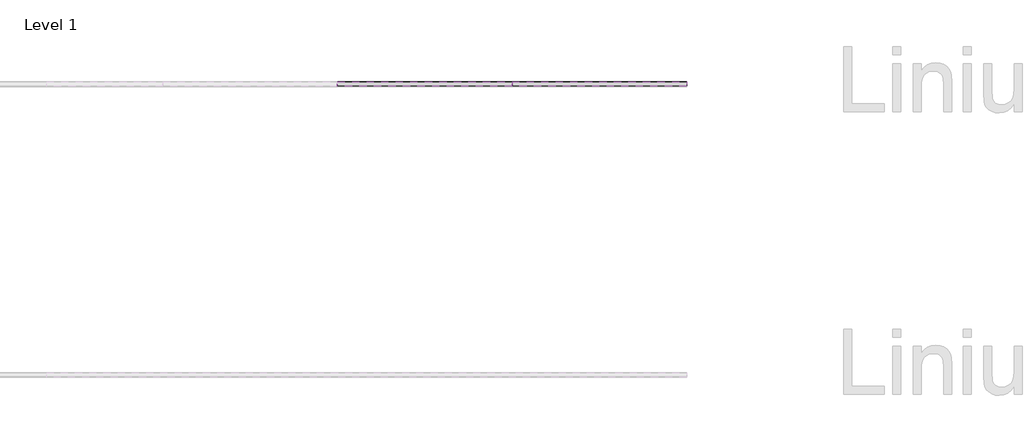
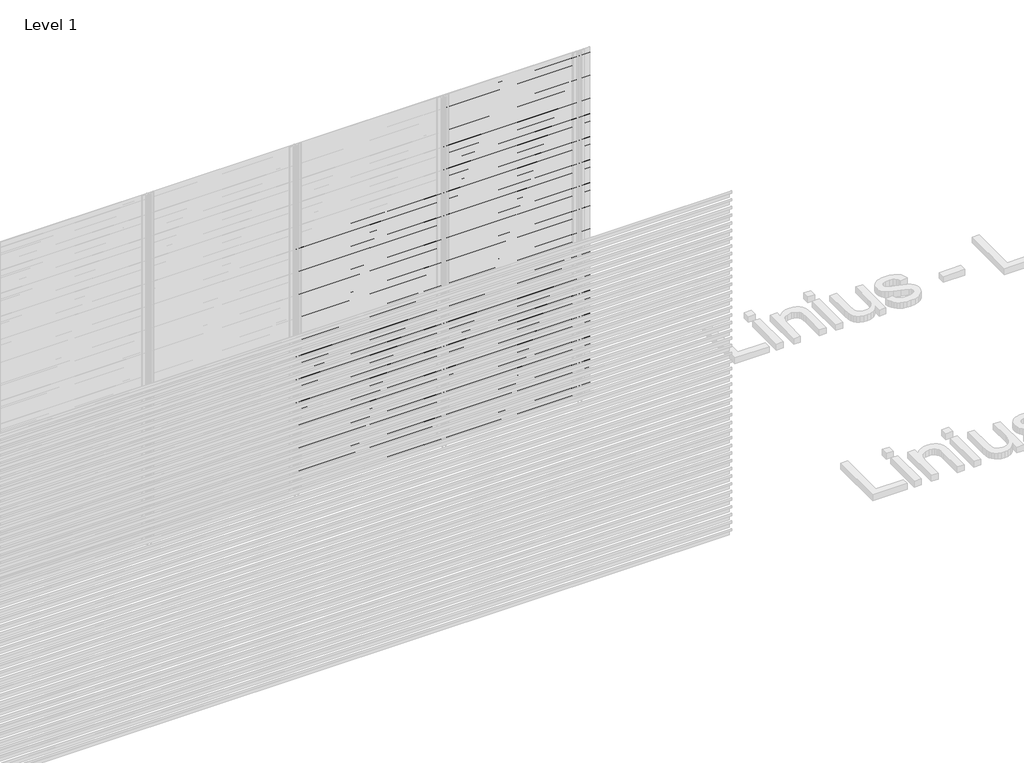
# One storey, part 48 of 540: 78 proxies.
"""IFC4 building model written with IfcOpenShell, lengths in millimetres."""

from ifc_helpers import new_model, si_unit, frame, origin, place, context, project, spatial, polyline, outline, extrude, element, save

model = new_model("IFC4")

# Units and contexts
model_context = context("Model", 3, world=origin())
ifc_project = project(units=[si_unit("LENGTHUNIT", "METRE", prefix="MILLI")], contexts=[model_context])

# Site, building, storey
site = spatial("IfcSite", under=ifc_project)
building = spatial("IfcBuilding", under=site)
storey = spatial("IfcBuildingStorey", under=building, Name="Level 1", Elevation=0.0)

# Proxies
placement = place(None, origin())
element("IfcBuildingElementProxy", 1, Name="Wall Sweeps", at=placement, inside=storey, context=model_context, shape_type="SweptSolid", body=[
    extrude(outline(polyline([(7018.0270068, 2138.0), (7018.0270068, 2105.0), (7016.7770068, 2105.7216933), (7016.7770068, 2137.2872415), (6987.0270068, 2158.0588647), (6987.0270068, 2178.0), (6988.2770068, 2178.0), (6988.2770068, 2158.7716232), (7018.0270068, 2138.0)])), frame((48566.6208097, 0.0, 0.0), z_axis=(1.0, 0.0, 0.0), x_axis=(0.0, 1.0, 0.0)), (0.0, 0.0, 1.0), 1200.0),
])
element("IfcBuildingElementProxy", 2, Name="Wall Sweeps", at=placement, inside=storey, context=model_context, shape_type="SweptSolid", body=[
    extrude(outline(polyline([(7018.0270068, 2072.0), (7018.0270068, 2039.0), (7016.7770068, 2039.7216933), (7016.7770068, 2071.2872415), (6987.0270068, 2092.0588647), (6987.0270068, 2112.0), (6988.2770068, 2112.0), (6988.2770068, 2092.7716232), (7018.0270068, 2072.0)])), frame((48566.6208097, 0.0, 0.0), z_axis=(1.0, 0.0, 0.0), x_axis=(0.0, 1.0, 0.0)), (0.0, 0.0, 1.0), 1200.0),
])
element("IfcBuildingElementProxy", 3, Name="Wall Sweeps", at=placement, inside=storey, context=model_context, shape_type="SweptSolid", body=[
    extrude(outline(polyline([(7018.0270068, 2006.0), (7018.0270068, 1973.0), (7016.7770068, 1973.7216933), (7016.7770068, 2005.2872415), (6987.0270068, 2026.0588647), (6987.0270068, 2046.0), (6988.2770068, 2046.0), (6988.2770068, 2026.7716232), (7018.0270068, 2006.0)])), frame((48566.6208097, 0.0, 0.0), z_axis=(1.0, 0.0, 0.0), x_axis=(0.0, 1.0, 0.0)), (0.0, 0.0, 1.0), 1200.0),
])
element("IfcBuildingElementProxy", 4, Name="Wall Sweeps", at=placement, inside=storey, context=model_context, shape_type="SweptSolid", body=[
    extrude(outline(polyline([(7018.0270068, 1940.0), (7018.0270068, 1907.0), (7016.7770068, 1907.7216933), (7016.7770068, 1939.2872415), (6987.0270068, 1960.0588647), (6987.0270068, 1980.0), (6988.2770068, 1980.0), (6988.2770068, 1960.7716232), (7018.0270068, 1940.0)])), frame((48566.6208097, 0.0, 0.0), z_axis=(1.0, 0.0, 0.0), x_axis=(0.0, 1.0, 0.0)), (0.0, 0.0, 1.0), 1200.0),
])
element("IfcBuildingElementProxy", 5, Name="Wall Sweeps", at=placement, inside=storey, context=model_context, shape_type="SweptSolid", body=[
    extrude(outline(polyline([(7018.0270068, 1874.0), (7018.0270068, 1841.0), (7016.7770068, 1841.7216933), (7016.7770068, 1873.2872415), (6987.0270068, 1894.0588647), (6987.0270068, 1914.0), (6988.2770068, 1914.0), (6988.2770068, 1894.7716232), (7018.0270068, 1874.0)])), frame((48566.6208097, 0.0, 0.0), z_axis=(1.0, 0.0, 0.0), x_axis=(0.0, 1.0, 0.0)), (0.0, 0.0, 1.0), 1200.0),
])
element("IfcBuildingElementProxy", 6, Name="Wall Sweeps", at=placement, inside=storey, context=model_context, shape_type="SweptSolid", body=[
    extrude(outline(polyline([(7018.0270068, 1808.0), (7018.0270068, 1775.0), (7016.7770068, 1775.7216933), (7016.7770068, 1807.2872415), (6987.0270068, 1828.0588647), (6987.0270068, 1848.0), (6988.2770068, 1848.0), (6988.2770068, 1828.7716232), (7018.0270068, 1808.0)])), frame((48566.6208097, 0.0, 0.0), z_axis=(1.0, 0.0, 0.0), x_axis=(0.0, 1.0, 0.0)), (0.0, 0.0, 1.0), 1200.0),
])
element("IfcBuildingElementProxy", 7, Name="Wall Sweeps", at=placement, inside=storey, context=model_context, shape_type="SweptSolid", body=[
    extrude(outline(polyline([(7018.0270068, 1742.0), (7018.0270068, 1709.0), (7016.7770068, 1709.7216933), (7016.7770068, 1741.2872415), (6987.0270068, 1762.0588647), (6987.0270068, 1782.0), (6988.2770068, 1782.0), (6988.2770068, 1762.7716232), (7018.0270068, 1742.0)])), frame((48566.6208097, 0.0, 0.0), z_axis=(1.0, 0.0, 0.0), x_axis=(0.0, 1.0, 0.0)), (0.0, 0.0, 1.0), 1200.0),
])
element("IfcBuildingElementProxy", 8, Name="Wall Sweeps", at=placement, inside=storey, context=model_context, shape_type="SweptSolid", body=[
    extrude(outline(polyline([(7018.0270068, 1676.0), (7018.0270068, 1643.0), (7016.7770068, 1643.7216933), (7016.7770068, 1675.2872415), (6987.0270068, 1696.0588647), (6987.0270068, 1716.0), (6988.2770068, 1716.0), (6988.2770068, 1696.7716232), (7018.0270068, 1676.0)])), frame((48566.6208097, 0.0, 0.0), z_axis=(1.0, 0.0, 0.0), x_axis=(0.0, 1.0, 0.0)), (0.0, 0.0, 1.0), 1200.0),
])
element("IfcBuildingElementProxy", 9, Name="Wall Sweeps", at=placement, inside=storey, context=model_context, shape_type="SweptSolid", body=[
    extrude(outline(polyline([(7018.0270068, 1610.0), (7018.0270068, 1577.0), (7016.7770068, 1577.7216933), (7016.7770068, 1609.2872415), (6987.0270068, 1630.0588647), (6987.0270068, 1650.0), (6988.2770068, 1650.0), (6988.2770068, 1630.7716232), (7018.0270068, 1610.0)])), frame((48566.6208097, 0.0, 0.0), z_axis=(1.0, 0.0, 0.0), x_axis=(0.0, 1.0, 0.0)), (0.0, 0.0, 1.0), 1200.0),
])
element("IfcBuildingElementProxy", 10, Name="Wall Sweeps", at=placement, inside=storey, context=model_context, shape_type="SweptSolid", body=[
    extrude(outline(polyline([(7018.0270068, 1544.0), (7018.0270068, 1511.0), (7016.7770068, 1511.7216933), (7016.7770068, 1543.2872415), (6987.0270068, 1564.0588647), (6987.0270068, 1584.0), (6988.2770068, 1584.0), (6988.2770068, 1564.7716232), (7018.0270068, 1544.0)])), frame((48566.6208097, 0.0, 0.0), z_axis=(1.0, 0.0, 0.0), x_axis=(0.0, 1.0, 0.0)), (0.0, 0.0, 1.0), 1200.0),
])
element("IfcBuildingElementProxy", 11, Name="Wall Sweeps", at=placement, inside=storey, context=model_context, shape_type="SweptSolid", body=[
    extrude(outline(polyline([(7018.0270068, 1478.0), (7018.0270068, 1445.0), (7016.7770068, 1445.7216933), (7016.7770068, 1477.2872415), (6987.0270068, 1498.0588647), (6987.0270068, 1518.0), (6988.2770068, 1518.0), (6988.2770068, 1498.7716232), (7018.0270068, 1478.0)])), frame((48566.6208097, 0.0, 0.0), z_axis=(1.0, 0.0, 0.0), x_axis=(0.0, 1.0, 0.0)), (0.0, 0.0, 1.0), 1200.0),
])
element("IfcBuildingElementProxy", 12, Name="Wall Sweeps", at=placement, inside=storey, context=model_context, shape_type="SweptSolid", body=[
    extrude(outline(polyline([(7018.0270068, 1412.0), (7018.0270068, 1379.0), (7016.7770068, 1379.7216933), (7016.7770068, 1411.2872415), (6987.0270068, 1432.0588647), (6987.0270068, 1452.0), (6988.2770068, 1452.0), (6988.2770068, 1432.7716232), (7018.0270068, 1412.0)])), frame((48566.6208097, 0.0, 0.0), z_axis=(1.0, 0.0, 0.0), x_axis=(0.0, 1.0, 0.0)), (0.0, 0.0, 1.0), 1200.0),
])
element("IfcBuildingElementProxy", 13, Name="Wall Sweeps", at=placement, inside=storey, context=model_context, shape_type="SweptSolid", body=[
    extrude(outline(polyline([(7018.0270068, 1346.0), (7018.0270068, 1313.0), (7016.7770068, 1313.7216933), (7016.7770068, 1345.2872415), (6987.0270068, 1366.0588647), (6987.0270068, 1386.0), (6988.2770068, 1386.0), (6988.2770068, 1366.7716232), (7018.0270068, 1346.0)])), frame((48566.6208097, 0.0, 0.0), z_axis=(1.0, 0.0, 0.0), x_axis=(0.0, 1.0, 0.0)), (0.0, 0.0, 1.0), 1200.0),
])
element("IfcBuildingElementProxy", 14, Name="Wall Sweeps", at=placement, inside=storey, context=model_context, shape_type="SweptSolid", body=[
    extrude(outline(polyline([(7018.0270068, 1280.0), (7018.0270068, 1247.0), (7016.7770068, 1247.7216933), (7016.7770068, 1279.2872415), (6987.0270068, 1300.0588647), (6987.0270068, 1320.0), (6988.2770068, 1320.0), (6988.2770068, 1300.7716232), (7018.0270068, 1280.0)])), frame((48566.6208097, 0.0, 0.0), z_axis=(1.0, 0.0, 0.0), x_axis=(0.0, 1.0, 0.0)), (0.0, 0.0, 1.0), 1200.0),
])
element("IfcBuildingElementProxy", 15, Name="Wall Sweeps", at=placement, inside=storey, context=model_context, shape_type="SweptSolid", body=[
    extrude(outline(polyline([(7018.0270068, 1214.0), (7018.0270068, 1181.0), (7016.7770068, 1181.7216933), (7016.7770068, 1213.2872415), (6987.0270068, 1234.0588647), (6987.0270068, 1254.0), (6988.2770068, 1254.0), (6988.2770068, 1234.7716232), (7018.0270068, 1214.0)])), frame((48566.6208097, 0.0, 0.0), z_axis=(1.0, 0.0, 0.0), x_axis=(0.0, 1.0, 0.0)), (0.0, 0.0, 1.0), 1200.0),
])
element("IfcBuildingElementProxy", 16, Name="Wall Sweeps", at=placement, inside=storey, context=model_context, shape_type="SweptSolid", body=[
    extrude(outline(polyline([(7018.0270068, 1148.0), (7018.0270068, 1115.0), (7016.7770068, 1115.7216933), (7016.7770068, 1147.2872415), (6987.0270068, 1168.0588647), (6987.0270068, 1188.0), (6988.2770068, 1188.0), (6988.2770068, 1168.7716232), (7018.0270068, 1148.0)])), frame((48566.6208097, 0.0, 0.0), z_axis=(1.0, 0.0, 0.0), x_axis=(0.0, 1.0, 0.0)), (0.0, 0.0, 1.0), 1200.0),
])
element("IfcBuildingElementProxy", 17, Name="Wall Sweeps", at=placement, inside=storey, context=model_context, shape_type="SweptSolid", body=[
    extrude(outline(polyline([(7018.0270068, 1082.0), (7018.0270068, 1049.0), (7016.7770068, 1049.7216933), (7016.7770068, 1081.2872415), (6987.0270068, 1102.0588647), (6987.0270068, 1122.0), (6988.2770068, 1122.0), (6988.2770068, 1102.7716232), (7018.0270068, 1082.0)])), frame((48566.6208097, 0.0, 0.0), z_axis=(1.0, 0.0, 0.0), x_axis=(0.0, 1.0, 0.0)), (0.0, 0.0, 1.0), 1200.0),
])
element("IfcBuildingElementProxy", 18, Name="Wall Sweeps", at=placement, inside=storey, context=model_context, shape_type="SweptSolid", body=[
    extrude(outline(polyline([(7018.0270068, 1016.0), (7018.0270068, 983.0), (7016.7770068, 983.7216933), (7016.7770068, 1015.2872415), (6987.0270068, 1036.0588647), (6987.0270068, 1056.0), (6988.2770068, 1056.0), (6988.2770068, 1036.7716232), (7018.0270068, 1016.0)])), frame((48566.6208097, 0.0, 0.0), z_axis=(1.0, 0.0, 0.0), x_axis=(0.0, 1.0, 0.0)), (0.0, 0.0, 1.0), 1200.0),
])
element("IfcBuildingElementProxy", 19, Name="Wall Sweeps", at=placement, inside=storey, context=model_context, shape_type="SweptSolid", body=[
    extrude(outline(polyline([(7018.0270068, 950.0), (7018.0270068, 917.0), (7016.7770068, 917.7216933), (7016.7770068, 949.2872415), (6987.0270068, 970.0588647), (6987.0270068, 990.0), (6988.2770068, 990.0), (6988.2770068, 970.7716232), (7018.0270068, 950.0)])), frame((48566.6208097, 0.0, 0.0), z_axis=(1.0, 0.0, 0.0), x_axis=(0.0, 1.0, 0.0)), (0.0, 0.0, 1.0), 1200.0),
])
element("IfcBuildingElementProxy", 20, Name="Wall Sweeps", at=placement, inside=storey, context=model_context, shape_type="SweptSolid", body=[
    extrude(outline(polyline([(7018.0270068, 884.0), (7018.0270068, 851.0), (7016.7770068, 851.7216933), (7016.7770068, 883.2872415), (6987.0270068, 904.0588647), (6987.0270068, 924.0), (6988.2770068, 924.0), (6988.2770068, 904.7716232), (7018.0270068, 884.0)])), frame((48566.6208097, 0.0, 0.0), z_axis=(1.0, 0.0, 0.0), x_axis=(0.0, 1.0, 0.0)), (0.0, 0.0, 1.0), 1200.0),
])
element("IfcBuildingElementProxy", 21, Name="Wall Sweeps", at=placement, inside=storey, context=model_context, shape_type="SweptSolid", body=[
    extrude(outline(polyline([(7018.0270068, 818.0), (7018.0270068, 785.0), (7016.7770068, 785.7216933), (7016.7770068, 817.2872415), (6987.0270068, 838.0588647), (6987.0270068, 858.0), (6988.2770068, 858.0), (6988.2770068, 838.7716232), (7018.0270068, 818.0)])), frame((48566.6208097, 0.0, 0.0), z_axis=(1.0, 0.0, 0.0), x_axis=(0.0, 1.0, 0.0)), (0.0, 0.0, 1.0), 1200.0),
])
element("IfcBuildingElementProxy", 22, Name="Wall Sweeps", at=placement, inside=storey, context=model_context, shape_type="SweptSolid", body=[
    extrude(outline(polyline([(7018.0270068, 752.0), (7018.0270068, 719.0), (7016.7770068, 719.7216933), (7016.7770068, 751.2872415), (6987.0270068, 772.0588647), (6987.0270068, 792.0), (6988.2770068, 792.0), (6988.2770068, 772.7716232), (7018.0270068, 752.0)])), frame((48566.6208097, 0.0, 0.0), z_axis=(1.0, 0.0, 0.0), x_axis=(0.0, 1.0, 0.0)), (0.0, 0.0, 1.0), 1200.0),
])
element("IfcBuildingElementProxy", 23, Name="Wall Sweeps", at=placement, inside=storey, context=model_context, shape_type="SweptSolid", body=[
    extrude(outline(polyline([(7018.0270068, 686.0), (7018.0270068, 653.0), (7016.7770068, 653.7216933), (7016.7770068, 685.2872415), (6987.0270068, 706.0588647), (6987.0270068, 726.0), (6988.2770068, 726.0), (6988.2770068, 706.7716232), (7018.0270068, 686.0)])), frame((48566.6208097, 0.0, 0.0), z_axis=(1.0, 0.0, 0.0), x_axis=(0.0, 1.0, 0.0)), (0.0, 0.0, 1.0), 1200.0),
])
element("IfcBuildingElementProxy", 24, Name="Wall Sweeps", at=placement, inside=storey, context=model_context, shape_type="SweptSolid", body=[
    extrude(outline(polyline([(7018.0270068, 620.0), (7018.0270068, 587.0), (7016.7770068, 587.7216933), (7016.7770068, 619.2872415), (6987.0270068, 640.0588647), (6987.0270068, 660.0), (6988.2770068, 660.0), (6988.2770068, 640.7716232), (7018.0270068, 620.0)])), frame((48566.6208097, 0.0, 0.0), z_axis=(1.0, 0.0, 0.0), x_axis=(0.0, 1.0, 0.0)), (0.0, 0.0, 1.0), 1200.0),
])
element("IfcBuildingElementProxy", 25, Name="Wall Sweeps", at=placement, inside=storey, context=model_context, shape_type="SweptSolid", body=[
    extrude(outline(polyline([(7018.0270068, 554.0), (7018.0270068, 521.0), (7016.7770068, 521.7216933), (7016.7770068, 553.2872415), (6987.0270068, 574.0588647), (6987.0270068, 594.0), (6988.2770068, 594.0), (6988.2770068, 574.7716232), (7018.0270068, 554.0)])), frame((48566.6208097, 0.0, 0.0), z_axis=(1.0, 0.0, 0.0), x_axis=(0.0, 1.0, 0.0)), (0.0, 0.0, 1.0), 1200.0),
])
element("IfcBuildingElementProxy", 26, Name="Wall Sweeps", at=placement, inside=storey, context=model_context, shape_type="SweptSolid", body=[
    extrude(outline(polyline([(7018.0270068, 488.0), (7018.0270068, 455.0), (7016.7770068, 455.7216933), (7016.7770068, 487.2872415), (6987.0270068, 508.0588647), (6987.0270068, 528.0), (6988.2770068, 528.0), (6988.2770068, 508.7716232), (7018.0270068, 488.0)])), frame((48566.6208097, 0.0, 0.0), z_axis=(1.0, 0.0, 0.0), x_axis=(0.0, 1.0, 0.0)), (0.0, 0.0, 1.0), 1200.0),
])
element("IfcBuildingElementProxy", 27, Name="Wall Sweeps", at=placement, inside=storey, context=model_context, shape_type="SweptSolid", body=[
    extrude(outline(polyline([(7018.0270068, 422.0), (7018.0270068, 389.0), (7016.7770068, 389.7216933), (7016.7770068, 421.2872415), (6987.0270068, 442.0588647), (6987.0270068, 462.0), (6988.2770068, 462.0), (6988.2770068, 442.7716232), (7018.0270068, 422.0)])), frame((48566.6208097, 0.0, 0.0), z_axis=(1.0, 0.0, 0.0), x_axis=(0.0, 1.0, 0.0)), (0.0, 0.0, 1.0), 1200.0),
])
element("IfcBuildingElementProxy", 28, Name="Wall Sweeps", at=placement, inside=storey, context=model_context, shape_type="SweptSolid", body=[
    extrude(outline(polyline([(7018.0270068, 356.0), (7018.0270068, 323.0), (7016.7770068, 323.7216933), (7016.7770068, 355.2872415), (6987.0270068, 376.0588647), (6987.0270068, 396.0), (6988.2770068, 396.0), (6988.2770068, 376.7716232), (7018.0270068, 356.0)])), frame((48566.6208097, 0.0, 0.0), z_axis=(1.0, 0.0, 0.0), x_axis=(0.0, 1.0, 0.0)), (0.0, 0.0, 1.0), 1200.0),
])
element("IfcBuildingElementProxy", 29, Name="Wall Sweeps", at=placement, inside=storey, context=model_context, shape_type="SweptSolid", body=[
    extrude(outline(polyline([(7018.0270068, 290.0), (7018.0270068, 257.0), (7016.7770068, 257.7216933), (7016.7770068, 289.2872415), (6987.0270068, 310.0588647), (6987.0270068, 330.0), (6988.2770068, 330.0), (6988.2770068, 310.7716232), (7018.0270068, 290.0)])), frame((48566.6208097, 0.0, 0.0), z_axis=(1.0, 0.0, 0.0), x_axis=(0.0, 1.0, 0.0)), (0.0, 0.0, 1.0), 1200.0),
])
element("IfcBuildingElementProxy", 30, Name="Wall Sweeps", at=placement, inside=storey, context=model_context, shape_type="SweptSolid", body=[
    extrude(outline(polyline([(7018.0270068, 224.0), (7018.0270068, 191.0), (7016.7770068, 191.7216933), (7016.7770068, 223.2872415), (6987.0270068, 244.0588647), (6987.0270068, 264.0), (6988.2770068, 264.0), (6988.2770068, 244.7716232), (7018.0270068, 224.0)])), frame((48566.6208097, 0.0, 0.0), z_axis=(1.0, 0.0, 0.0), x_axis=(0.0, 1.0, 0.0)), (0.0, 0.0, 1.0), 1200.0),
])
element("IfcBuildingElementProxy", 31, Name="Wall Sweeps", at=placement, inside=storey, context=model_context, shape_type="SweptSolid", body=[
    extrude(outline(polyline([(7018.0270068, 158.0), (7018.0270068, 125.0), (7016.7770068, 125.7216933), (7016.7770068, 157.2872415), (6987.0270068, 178.0588647), (6987.0270068, 198.0), (6988.2770068, 198.0), (6988.2770068, 178.7716232), (7018.0270068, 158.0)])), frame((48566.6208097, 0.0, 0.0), z_axis=(1.0, 0.0, 0.0), x_axis=(0.0, 1.0, 0.0)), (0.0, 0.0, 1.0), 1200.0),
])
element("IfcBuildingElementProxy", 32, Name="Wall Sweeps", at=placement, inside=storey, context=model_context, shape_type="SweptSolid", body=[
    extrude(outline(polyline([(7018.0270068, 92.0), (7018.0270068, 59.0), (7016.7770068, 59.7216933), (7016.7770068, 91.2872415), (6987.0270068, 112.0588647), (6987.0270068, 132.0), (6988.2770068, 132.0), (6988.2770068, 112.7716232), (7018.0270068, 92.0)])), frame((48566.6208097, 0.0, 0.0), z_axis=(1.0, 0.0, 0.0), x_axis=(0.0, 1.0, 0.0)), (0.0, 0.0, 1.0), 1200.0),
])
element("IfcBuildingElementProxy", 33, Name="Wall Sweeps", at=placement, inside=storey, context=model_context, shape_type="SweptSolid", body=[
    extrude(outline(polyline([(7018.0270068, 26.0), (7018.0270068, -7.0), (7016.7770068, -6.2783067), (7016.7770068, 25.2872415), (6987.0270068, 46.0588647), (6987.0270068, 66.0), (6988.2770068, 66.0), (6988.2770068, 46.7716232), (7018.0270068, 26.0)])), frame((48566.6208097, 0.0, 0.0), z_axis=(1.0, 0.0, 0.0), x_axis=(0.0, 1.0, 0.0)), (0.0, 0.0, 1.0), 1200.0),
])
element("IfcBuildingElementProxy", 34, Name="Wall Sweeps", at=placement, inside=storey, context=model_context, shape_type="SweptSolid", body=[
    extrude(outline(polyline([(7018.0270068, 2930.0), (7018.0270068, 2897.0), (7016.7770068, 2897.7216933), (7016.7770068, 2929.2872415), (6987.0270068, 2950.0588647), (6987.0270068, 2970.0), (6988.2770068, 2970.0), (6988.2770068, 2950.7716232), (7018.0270068, 2930.0)])), frame((49766.6208097, 0.0, 0.0), z_axis=(1.0, 0.0, 0.0), x_axis=(0.0, 1.0, 0.0)), (0.0, 0.0, 1.0), 1200.0),
])
element("IfcBuildingElementProxy", 35, Name="Wall Sweeps", at=placement, inside=storey, context=model_context, shape_type="SweptSolid", body=[
    extrude(outline(polyline([(7018.0270068, 2864.0), (7018.0270068, 2831.0), (7016.7770068, 2831.7216933), (7016.7770068, 2863.2872415), (6987.0270068, 2884.0588647), (6987.0270068, 2904.0), (6988.2770068, 2904.0), (6988.2770068, 2884.7716232), (7018.0270068, 2864.0)])), frame((49766.6208097, 0.0, 0.0), z_axis=(1.0, 0.0, 0.0), x_axis=(0.0, 1.0, 0.0)), (0.0, 0.0, 1.0), 1200.0),
])
element("IfcBuildingElementProxy", 36, Name="Wall Sweeps", at=placement, inside=storey, context=model_context, shape_type="SweptSolid", body=[
    extrude(outline(polyline([(7018.0270068, 2798.0), (7018.0270068, 2765.0), (7016.7770068, 2765.7216933), (7016.7770068, 2797.2872415), (6987.0270068, 2818.0588647), (6987.0270068, 2838.0), (6988.2770068, 2838.0), (6988.2770068, 2818.7716232), (7018.0270068, 2798.0)])), frame((49766.6208097, 0.0, 0.0), z_axis=(1.0, 0.0, 0.0), x_axis=(0.0, 1.0, 0.0)), (0.0, 0.0, 1.0), 1200.0),
])
element("IfcBuildingElementProxy", 37, Name="Wall Sweeps", at=placement, inside=storey, context=model_context, shape_type="SweptSolid", body=[
    extrude(outline(polyline([(7018.0270068, 2732.0), (7018.0270068, 2699.0), (7016.7770068, 2699.7216933), (7016.7770068, 2731.2872415), (6987.0270068, 2752.0588647), (6987.0270068, 2772.0), (6988.2770068, 2772.0), (6988.2770068, 2752.7716232), (7018.0270068, 2732.0)])), frame((49766.6208097, 0.0, 0.0), z_axis=(1.0, 0.0, 0.0), x_axis=(0.0, 1.0, 0.0)), (0.0, 0.0, 1.0), 1200.0),
])
element("IfcBuildingElementProxy", 38, Name="Wall Sweeps", at=placement, inside=storey, context=model_context, shape_type="SweptSolid", body=[
    extrude(outline(polyline([(7018.0270068, 2666.0), (7018.0270068, 2633.0), (7016.7770068, 2633.7216933), (7016.7770068, 2665.2872415), (6987.0270068, 2686.0588647), (6987.0270068, 2706.0), (6988.2770068, 2706.0), (6988.2770068, 2686.7716232), (7018.0270068, 2666.0)])), frame((49766.6208097, 0.0, 0.0), z_axis=(1.0, 0.0, 0.0), x_axis=(0.0, 1.0, 0.0)), (0.0, 0.0, 1.0), 1200.0),
])
element("IfcBuildingElementProxy", 39, Name="Wall Sweeps", at=placement, inside=storey, context=model_context, shape_type="SweptSolid", body=[
    extrude(outline(polyline([(7018.0270068, 2600.0), (7018.0270068, 2567.0), (7016.7770068, 2567.7216933), (7016.7770068, 2599.2872415), (6987.0270068, 2620.0588647), (6987.0270068, 2640.0), (6988.2770068, 2640.0), (6988.2770068, 2620.7716232), (7018.0270068, 2600.0)])), frame((49766.6208097, 0.0, 0.0), z_axis=(1.0, 0.0, 0.0), x_axis=(0.0, 1.0, 0.0)), (0.0, 0.0, 1.0), 1200.0),
])
element("IfcBuildingElementProxy", 40, Name="Wall Sweeps", at=placement, inside=storey, context=model_context, shape_type="SweptSolid", body=[
    extrude(outline(polyline([(7018.0270068, 2534.0), (7018.0270068, 2501.0), (7016.7770068, 2501.7216933), (7016.7770068, 2533.2872415), (6987.0270068, 2554.0588647), (6987.0270068, 2574.0), (6988.2770068, 2574.0), (6988.2770068, 2554.7716232), (7018.0270068, 2534.0)])), frame((49766.6208097, 0.0, 0.0), z_axis=(1.0, 0.0, 0.0), x_axis=(0.0, 1.0, 0.0)), (0.0, 0.0, 1.0), 1200.0),
])
element("IfcBuildingElementProxy", 41, Name="Wall Sweeps", at=placement, inside=storey, context=model_context, shape_type="SweptSolid", body=[
    extrude(outline(polyline([(7018.0270068, 2468.0), (7018.0270068, 2435.0), (7016.7770068, 2435.7216933), (7016.7770068, 2467.2872415), (6987.0270068, 2488.0588647), (6987.0270068, 2508.0), (6988.2770068, 2508.0), (6988.2770068, 2488.7716232), (7018.0270068, 2468.0)])), frame((49766.6208097, 0.0, 0.0), z_axis=(1.0, 0.0, 0.0), x_axis=(0.0, 1.0, 0.0)), (0.0, 0.0, 1.0), 1200.0),
])
element("IfcBuildingElementProxy", 42, Name="Wall Sweeps", at=placement, inside=storey, context=model_context, shape_type="SweptSolid", body=[
    extrude(outline(polyline([(7018.0270068, 2402.0), (7018.0270068, 2369.0), (7016.7770068, 2369.7216933), (7016.7770068, 2401.2872415), (6987.0270068, 2422.0588647), (6987.0270068, 2442.0), (6988.2770068, 2442.0), (6988.2770068, 2422.7716232), (7018.0270068, 2402.0)])), frame((49766.6208097, 0.0, 0.0), z_axis=(1.0, 0.0, 0.0), x_axis=(0.0, 1.0, 0.0)), (0.0, 0.0, 1.0), 1200.0),
])
element("IfcBuildingElementProxy", 43, Name="Wall Sweeps", at=placement, inside=storey, context=model_context, shape_type="SweptSolid", body=[
    extrude(outline(polyline([(7018.0270068, 2336.0), (7018.0270068, 2303.0), (7016.7770068, 2303.7216933), (7016.7770068, 2335.2872415), (6987.0270068, 2356.0588647), (6987.0270068, 2376.0), (6988.2770068, 2376.0), (6988.2770068, 2356.7716232), (7018.0270068, 2336.0)])), frame((49766.6208097, 0.0, 0.0), z_axis=(1.0, 0.0, 0.0), x_axis=(0.0, 1.0, 0.0)), (0.0, 0.0, 1.0), 1200.0),
])
element("IfcBuildingElementProxy", 44, Name="Wall Sweeps", at=placement, inside=storey, context=model_context, shape_type="SweptSolid", body=[
    extrude(outline(polyline([(7018.0270068, 2270.0), (7018.0270068, 2237.0), (7016.7770068, 2237.7216933), (7016.7770068, 2269.2872415), (6987.0270068, 2290.0588647), (6987.0270068, 2310.0), (6988.2770068, 2310.0), (6988.2770068, 2290.7716232), (7018.0270068, 2270.0)])), frame((49766.6208097, 0.0, 0.0), z_axis=(1.0, 0.0, 0.0), x_axis=(0.0, 1.0, 0.0)), (0.0, 0.0, 1.0), 1200.0),
])
element("IfcBuildingElementProxy", 45, Name="Wall Sweeps", at=placement, inside=storey, context=model_context, shape_type="SweptSolid", body=[
    extrude(outline(polyline([(7018.0270068, 2204.0), (7018.0270068, 2171.0), (7016.7770068, 2171.7216933), (7016.7770068, 2203.2872415), (6987.0270068, 2224.0588647), (6987.0270068, 2244.0), (6988.2770068, 2244.0), (6988.2770068, 2224.7716232), (7018.0270068, 2204.0)])), frame((49766.6208097, 0.0, 0.0), z_axis=(1.0, 0.0, 0.0), x_axis=(0.0, 1.0, 0.0)), (0.0, 0.0, 1.0), 1200.0),
])
element("IfcBuildingElementProxy", 46, Name="Wall Sweeps", at=placement, inside=storey, context=model_context, shape_type="SweptSolid", body=[
    extrude(outline(polyline([(7018.0270068, 2138.0), (7018.0270068, 2105.0), (7016.7770068, 2105.7216933), (7016.7770068, 2137.2872415), (6987.0270068, 2158.0588647), (6987.0270068, 2178.0), (6988.2770068, 2178.0), (6988.2770068, 2158.7716232), (7018.0270068, 2138.0)])), frame((49766.6208097, 0.0, 0.0), z_axis=(1.0, 0.0, 0.0), x_axis=(0.0, 1.0, 0.0)), (0.0, 0.0, 1.0), 1200.0),
])
element("IfcBuildingElementProxy", 47, Name="Wall Sweeps", at=placement, inside=storey, context=model_context, shape_type="SweptSolid", body=[
    extrude(outline(polyline([(7018.0270068, 2072.0), (7018.0270068, 2039.0), (7016.7770068, 2039.7216933), (7016.7770068, 2071.2872415), (6987.0270068, 2092.0588647), (6987.0270068, 2112.0), (6988.2770068, 2112.0), (6988.2770068, 2092.7716232), (7018.0270068, 2072.0)])), frame((49766.6208097, 0.0, 0.0), z_axis=(1.0, 0.0, 0.0), x_axis=(0.0, 1.0, 0.0)), (0.0, 0.0, 1.0), 1200.0),
])
element("IfcBuildingElementProxy", 48, Name="Wall Sweeps", at=placement, inside=storey, context=model_context, shape_type="SweptSolid", body=[
    extrude(outline(polyline([(7018.0270068, 2006.0), (7018.0270068, 1973.0), (7016.7770068, 1973.7216933), (7016.7770068, 2005.2872415), (6987.0270068, 2026.0588647), (6987.0270068, 2046.0), (6988.2770068, 2046.0), (6988.2770068, 2026.7716232), (7018.0270068, 2006.0)])), frame((49766.6208097, 0.0, 0.0), z_axis=(1.0, 0.0, 0.0), x_axis=(0.0, 1.0, 0.0)), (0.0, 0.0, 1.0), 1200.0),
])
element("IfcBuildingElementProxy", 49, Name="Wall Sweeps", at=placement, inside=storey, context=model_context, shape_type="SweptSolid", body=[
    extrude(outline(polyline([(7018.0270068, 1940.0), (7018.0270068, 1907.0), (7016.7770068, 1907.7216933), (7016.7770068, 1939.2872415), (6987.0270068, 1960.0588647), (6987.0270068, 1980.0), (6988.2770068, 1980.0), (6988.2770068, 1960.7716232), (7018.0270068, 1940.0)])), frame((49766.6208097, 0.0, 0.0), z_axis=(1.0, 0.0, 0.0), x_axis=(0.0, 1.0, 0.0)), (0.0, 0.0, 1.0), 1200.0),
])
element("IfcBuildingElementProxy", 50, Name="Wall Sweeps", at=placement, inside=storey, context=model_context, shape_type="SweptSolid", body=[
    extrude(outline(polyline([(7018.0270068, 1874.0), (7018.0270068, 1841.0), (7016.7770068, 1841.7216933), (7016.7770068, 1873.2872415), (6987.0270068, 1894.0588647), (6987.0270068, 1914.0), (6988.2770068, 1914.0), (6988.2770068, 1894.7716232), (7018.0270068, 1874.0)])), frame((49766.6208097, 0.0, 0.0), z_axis=(1.0, 0.0, 0.0), x_axis=(0.0, 1.0, 0.0)), (0.0, 0.0, 1.0), 1200.0),
])
element("IfcBuildingElementProxy", 51, Name="Wall Sweeps", at=placement, inside=storey, context=model_context, shape_type="SweptSolid", body=[
    extrude(outline(polyline([(7018.0270068, 1808.0), (7018.0270068, 1775.0), (7016.7770068, 1775.7216933), (7016.7770068, 1807.2872415), (6987.0270068, 1828.0588647), (6987.0270068, 1848.0), (6988.2770068, 1848.0), (6988.2770068, 1828.7716232), (7018.0270068, 1808.0)])), frame((49766.6208097, 0.0, 0.0), z_axis=(1.0, 0.0, 0.0), x_axis=(0.0, 1.0, 0.0)), (0.0, 0.0, 1.0), 1200.0),
])
element("IfcBuildingElementProxy", 52, Name="Wall Sweeps", at=placement, inside=storey, context=model_context, shape_type="SweptSolid", body=[
    extrude(outline(polyline([(7018.0270068, 1742.0), (7018.0270068, 1709.0), (7016.7770068, 1709.7216933), (7016.7770068, 1741.2872415), (6987.0270068, 1762.0588647), (6987.0270068, 1782.0), (6988.2770068, 1782.0), (6988.2770068, 1762.7716232), (7018.0270068, 1742.0)])), frame((49766.6208097, 0.0, 0.0), z_axis=(1.0, 0.0, 0.0), x_axis=(0.0, 1.0, 0.0)), (0.0, 0.0, 1.0), 1200.0),
])
element("IfcBuildingElementProxy", 53, Name="Wall Sweeps", at=placement, inside=storey, context=model_context, shape_type="SweptSolid", body=[
    extrude(outline(polyline([(7018.0270068, 1676.0), (7018.0270068, 1643.0), (7016.7770068, 1643.7216933), (7016.7770068, 1675.2872415), (6987.0270068, 1696.0588647), (6987.0270068, 1716.0), (6988.2770068, 1716.0), (6988.2770068, 1696.7716232), (7018.0270068, 1676.0)])), frame((49766.6208097, 0.0, 0.0), z_axis=(1.0, 0.0, 0.0), x_axis=(0.0, 1.0, 0.0)), (0.0, 0.0, 1.0), 1200.0),
])
element("IfcBuildingElementProxy", 54, Name="Wall Sweeps", at=placement, inside=storey, context=model_context, shape_type="SweptSolid", body=[
    extrude(outline(polyline([(7018.0270068, 1610.0), (7018.0270068, 1577.0), (7016.7770068, 1577.7216933), (7016.7770068, 1609.2872415), (6987.0270068, 1630.0588647), (6987.0270068, 1650.0), (6988.2770068, 1650.0), (6988.2770068, 1630.7716232), (7018.0270068, 1610.0)])), frame((49766.6208097, 0.0, 0.0), z_axis=(1.0, 0.0, 0.0), x_axis=(0.0, 1.0, 0.0)), (0.0, 0.0, 1.0), 1200.0),
])
element("IfcBuildingElementProxy", 55, Name="Wall Sweeps", at=placement, inside=storey, context=model_context, shape_type="SweptSolid", body=[
    extrude(outline(polyline([(7018.0270068, 1544.0), (7018.0270068, 1511.0), (7016.7770068, 1511.7216933), (7016.7770068, 1543.2872415), (6987.0270068, 1564.0588647), (6987.0270068, 1584.0), (6988.2770068, 1584.0), (6988.2770068, 1564.7716232), (7018.0270068, 1544.0)])), frame((49766.6208097, 0.0, 0.0), z_axis=(1.0, 0.0, 0.0), x_axis=(0.0, 1.0, 0.0)), (0.0, 0.0, 1.0), 1200.0),
])
element("IfcBuildingElementProxy", 56, Name="Wall Sweeps", at=placement, inside=storey, context=model_context, shape_type="SweptSolid", body=[
    extrude(outline(polyline([(7018.0270068, 1478.0), (7018.0270068, 1445.0), (7016.7770068, 1445.7216933), (7016.7770068, 1477.2872415), (6987.0270068, 1498.0588647), (6987.0270068, 1518.0), (6988.2770068, 1518.0), (6988.2770068, 1498.7716232), (7018.0270068, 1478.0)])), frame((49766.6208097, 0.0, 0.0), z_axis=(1.0, 0.0, 0.0), x_axis=(0.0, 1.0, 0.0)), (0.0, 0.0, 1.0), 1200.0),
])
element("IfcBuildingElementProxy", 57, Name="Wall Sweeps", at=placement, inside=storey, context=model_context, shape_type="SweptSolid", body=[
    extrude(outline(polyline([(7018.0270068, 1412.0), (7018.0270068, 1379.0), (7016.7770068, 1379.7216933), (7016.7770068, 1411.2872415), (6987.0270068, 1432.0588647), (6987.0270068, 1452.0), (6988.2770068, 1452.0), (6988.2770068, 1432.7716232), (7018.0270068, 1412.0)])), frame((49766.6208097, 0.0, 0.0), z_axis=(1.0, 0.0, 0.0), x_axis=(0.0, 1.0, 0.0)), (0.0, 0.0, 1.0), 1200.0),
])
element("IfcBuildingElementProxy", 58, Name="Wall Sweeps", at=placement, inside=storey, context=model_context, shape_type="SweptSolid", body=[
    extrude(outline(polyline([(7018.0270068, 1346.0), (7018.0270068, 1313.0), (7016.7770068, 1313.7216933), (7016.7770068, 1345.2872415), (6987.0270068, 1366.0588647), (6987.0270068, 1386.0), (6988.2770068, 1386.0), (6988.2770068, 1366.7716232), (7018.0270068, 1346.0)])), frame((49766.6208097, 0.0, 0.0), z_axis=(1.0, 0.0, 0.0), x_axis=(0.0, 1.0, 0.0)), (0.0, 0.0, 1.0), 1200.0),
])
element("IfcBuildingElementProxy", 59, Name="Wall Sweeps", at=placement, inside=storey, context=model_context, shape_type="SweptSolid", body=[
    extrude(outline(polyline([(7018.0270068, 1280.0), (7018.0270068, 1247.0), (7016.7770068, 1247.7216933), (7016.7770068, 1279.2872415), (6987.0270068, 1300.0588647), (6987.0270068, 1320.0), (6988.2770068, 1320.0), (6988.2770068, 1300.7716232), (7018.0270068, 1280.0)])), frame((49766.6208097, 0.0, 0.0), z_axis=(1.0, 0.0, 0.0), x_axis=(0.0, 1.0, 0.0)), (0.0, 0.0, 1.0), 1200.0),
])
element("IfcBuildingElementProxy", 60, Name="Wall Sweeps", at=placement, inside=storey, context=model_context, shape_type="SweptSolid", body=[
    extrude(outline(polyline([(7018.0270068, 1214.0), (7018.0270068, 1181.0), (7016.7770068, 1181.7216933), (7016.7770068, 1213.2872415), (6987.0270068, 1234.0588647), (6987.0270068, 1254.0), (6988.2770068, 1254.0), (6988.2770068, 1234.7716232), (7018.0270068, 1214.0)])), frame((49766.6208097, 0.0, 0.0), z_axis=(1.0, 0.0, 0.0), x_axis=(0.0, 1.0, 0.0)), (0.0, 0.0, 1.0), 1200.0),
])
element("IfcBuildingElementProxy", 61, Name="Wall Sweeps", at=placement, inside=storey, context=model_context, shape_type="SweptSolid", body=[
    extrude(outline(polyline([(7018.0270068, 1148.0), (7018.0270068, 1115.0), (7016.7770068, 1115.7216933), (7016.7770068, 1147.2872415), (6987.0270068, 1168.0588647), (6987.0270068, 1188.0), (6988.2770068, 1188.0), (6988.2770068, 1168.7716232), (7018.0270068, 1148.0)])), frame((49766.6208097, 0.0, 0.0), z_axis=(1.0, 0.0, 0.0), x_axis=(0.0, 1.0, 0.0)), (0.0, 0.0, 1.0), 1200.0),
])
element("IfcBuildingElementProxy", 62, Name="Wall Sweeps", at=placement, inside=storey, context=model_context, shape_type="SweptSolid", body=[
    extrude(outline(polyline([(7018.0270068, 1082.0), (7018.0270068, 1049.0), (7016.7770068, 1049.7216933), (7016.7770068, 1081.2872415), (6987.0270068, 1102.0588647), (6987.0270068, 1122.0), (6988.2770068, 1122.0), (6988.2770068, 1102.7716232), (7018.0270068, 1082.0)])), frame((49766.6208097, 0.0, 0.0), z_axis=(1.0, 0.0, 0.0), x_axis=(0.0, 1.0, 0.0)), (0.0, 0.0, 1.0), 1200.0),
])
element("IfcBuildingElementProxy", 63, Name="Wall Sweeps", at=placement, inside=storey, context=model_context, shape_type="SweptSolid", body=[
    extrude(outline(polyline([(7018.0270068, 1016.0), (7018.0270068, 983.0), (7016.7770068, 983.7216933), (7016.7770068, 1015.2872415), (6987.0270068, 1036.0588647), (6987.0270068, 1056.0), (6988.2770068, 1056.0), (6988.2770068, 1036.7716232), (7018.0270068, 1016.0)])), frame((49766.6208097, 0.0, 0.0), z_axis=(1.0, 0.0, 0.0), x_axis=(0.0, 1.0, 0.0)), (0.0, 0.0, 1.0), 1200.0),
])
element("IfcBuildingElementProxy", 64, Name="Wall Sweeps", at=placement, inside=storey, context=model_context, shape_type="SweptSolid", body=[
    extrude(outline(polyline([(7018.0270068, 950.0), (7018.0270068, 917.0), (7016.7770068, 917.7216933), (7016.7770068, 949.2872415), (6987.0270068, 970.0588647), (6987.0270068, 990.0), (6988.2770068, 990.0), (6988.2770068, 970.7716232), (7018.0270068, 950.0)])), frame((49766.6208097, 0.0, 0.0), z_axis=(1.0, 0.0, 0.0), x_axis=(0.0, 1.0, 0.0)), (0.0, 0.0, 1.0), 1200.0),
])
element("IfcBuildingElementProxy", 65, Name="Wall Sweeps", at=placement, inside=storey, context=model_context, shape_type="SweptSolid", body=[
    extrude(outline(polyline([(7018.0270068, 884.0), (7018.0270068, 851.0), (7016.7770068, 851.7216933), (7016.7770068, 883.2872415), (6987.0270068, 904.0588647), (6987.0270068, 924.0), (6988.2770068, 924.0), (6988.2770068, 904.7716232), (7018.0270068, 884.0)])), frame((49766.6208097, 0.0, 0.0), z_axis=(1.0, 0.0, 0.0), x_axis=(0.0, 1.0, 0.0)), (0.0, 0.0, 1.0), 1200.0),
])
element("IfcBuildingElementProxy", 66, Name="Wall Sweeps", at=placement, inside=storey, context=model_context, shape_type="SweptSolid", body=[
    extrude(outline(polyline([(7018.0270068, 818.0), (7018.0270068, 785.0), (7016.7770068, 785.7216933), (7016.7770068, 817.2872415), (6987.0270068, 838.0588647), (6987.0270068, 858.0), (6988.2770068, 858.0), (6988.2770068, 838.7716232), (7018.0270068, 818.0)])), frame((49766.6208097, 0.0, 0.0), z_axis=(1.0, 0.0, 0.0), x_axis=(0.0, 1.0, 0.0)), (0.0, 0.0, 1.0), 1200.0),
])
element("IfcBuildingElementProxy", 67, Name="Wall Sweeps", at=placement, inside=storey, context=model_context, shape_type="SweptSolid", body=[
    extrude(outline(polyline([(7018.0270068, 752.0), (7018.0270068, 719.0), (7016.7770068, 719.7216933), (7016.7770068, 751.2872415), (6987.0270068, 772.0588647), (6987.0270068, 792.0), (6988.2770068, 792.0), (6988.2770068, 772.7716232), (7018.0270068, 752.0)])), frame((49766.6208097, 0.0, 0.0), z_axis=(1.0, 0.0, 0.0), x_axis=(0.0, 1.0, 0.0)), (0.0, 0.0, 1.0), 1200.0),
])
element("IfcBuildingElementProxy", 68, Name="Wall Sweeps", at=placement, inside=storey, context=model_context, shape_type="SweptSolid", body=[
    extrude(outline(polyline([(7018.0270068, 686.0), (7018.0270068, 653.0), (7016.7770068, 653.7216933), (7016.7770068, 685.2872415), (6987.0270068, 706.0588647), (6987.0270068, 726.0), (6988.2770068, 726.0), (6988.2770068, 706.7716232), (7018.0270068, 686.0)])), frame((49766.6208097, 0.0, 0.0), z_axis=(1.0, 0.0, 0.0), x_axis=(0.0, 1.0, 0.0)), (0.0, 0.0, 1.0), 1200.0),
])
element("IfcBuildingElementProxy", 69, Name="Wall Sweeps", at=placement, inside=storey, context=model_context, shape_type="SweptSolid", body=[
    extrude(outline(polyline([(7018.0270068, 620.0), (7018.0270068, 587.0), (7016.7770068, 587.7216933), (7016.7770068, 619.2872415), (6987.0270068, 640.0588647), (6987.0270068, 660.0), (6988.2770068, 660.0), (6988.2770068, 640.7716232), (7018.0270068, 620.0)])), frame((49766.6208097, 0.0, 0.0), z_axis=(1.0, 0.0, 0.0), x_axis=(0.0, 1.0, 0.0)), (0.0, 0.0, 1.0), 1200.0),
])
element("IfcBuildingElementProxy", 70, Name="Wall Sweeps", at=placement, inside=storey, context=model_context, shape_type="SweptSolid", body=[
    extrude(outline(polyline([(7018.0270068, 554.0), (7018.0270068, 521.0), (7016.7770068, 521.7216933), (7016.7770068, 553.2872415), (6987.0270068, 574.0588647), (6987.0270068, 594.0), (6988.2770068, 594.0), (6988.2770068, 574.7716232), (7018.0270068, 554.0)])), frame((49766.6208097, 0.0, 0.0), z_axis=(1.0, 0.0, 0.0), x_axis=(0.0, 1.0, 0.0)), (0.0, 0.0, 1.0), 1200.0),
])
element("IfcBuildingElementProxy", 71, Name="Wall Sweeps", at=placement, inside=storey, context=model_context, shape_type="SweptSolid", body=[
    extrude(outline(polyline([(7018.0270068, 488.0), (7018.0270068, 455.0), (7016.7770068, 455.7216933), (7016.7770068, 487.2872415), (6987.0270068, 508.0588647), (6987.0270068, 528.0), (6988.2770068, 528.0), (6988.2770068, 508.7716232), (7018.0270068, 488.0)])), frame((49766.6208097, 0.0, 0.0), z_axis=(1.0, 0.0, 0.0), x_axis=(0.0, 1.0, 0.0)), (0.0, 0.0, 1.0), 1200.0),
])
element("IfcBuildingElementProxy", 72, Name="Wall Sweeps", at=placement, inside=storey, context=model_context, shape_type="SweptSolid", body=[
    extrude(outline(polyline([(7018.0270068, 422.0), (7018.0270068, 389.0), (7016.7770068, 389.7216933), (7016.7770068, 421.2872415), (6987.0270068, 442.0588647), (6987.0270068, 462.0), (6988.2770068, 462.0), (6988.2770068, 442.7716232), (7018.0270068, 422.0)])), frame((49766.6208097, 0.0, 0.0), z_axis=(1.0, 0.0, 0.0), x_axis=(0.0, 1.0, 0.0)), (0.0, 0.0, 1.0), 1200.0),
])
element("IfcBuildingElementProxy", 73, Name="Wall Sweeps", at=placement, inside=storey, context=model_context, shape_type="SweptSolid", body=[
    extrude(outline(polyline([(7018.0270068, 356.0), (7018.0270068, 323.0), (7016.7770068, 323.7216933), (7016.7770068, 355.2872415), (6987.0270068, 376.0588647), (6987.0270068, 396.0), (6988.2770068, 396.0), (6988.2770068, 376.7716232), (7018.0270068, 356.0)])), frame((49766.6208097, 0.0, 0.0), z_axis=(1.0, 0.0, 0.0), x_axis=(0.0, 1.0, 0.0)), (0.0, 0.0, 1.0), 1200.0),
])
element("IfcBuildingElementProxy", 74, Name="Wall Sweeps", at=placement, inside=storey, context=model_context, shape_type="SweptSolid", body=[
    extrude(outline(polyline([(7018.0270068, 290.0), (7018.0270068, 257.0), (7016.7770068, 257.7216933), (7016.7770068, 289.2872415), (6987.0270068, 310.0588647), (6987.0270068, 330.0), (6988.2770068, 330.0), (6988.2770068, 310.7716232), (7018.0270068, 290.0)])), frame((49766.6208097, 0.0, 0.0), z_axis=(1.0, 0.0, 0.0), x_axis=(0.0, 1.0, 0.0)), (0.0, 0.0, 1.0), 1200.0),
])
element("IfcBuildingElementProxy", 75, Name="Wall Sweeps", at=placement, inside=storey, context=model_context, shape_type="SweptSolid", body=[
    extrude(outline(polyline([(7018.0270068, 224.0), (7018.0270068, 191.0), (7016.7770068, 191.7216933), (7016.7770068, 223.2872415), (6987.0270068, 244.0588647), (6987.0270068, 264.0), (6988.2770068, 264.0), (6988.2770068, 244.7716232), (7018.0270068, 224.0)])), frame((49766.6208097, 0.0, 0.0), z_axis=(1.0, 0.0, 0.0), x_axis=(0.0, 1.0, 0.0)), (0.0, 0.0, 1.0), 1200.0),
])
element("IfcBuildingElementProxy", 76, Name="Wall Sweeps", at=placement, inside=storey, context=model_context, shape_type="SweptSolid", body=[
    extrude(outline(polyline([(7018.0270068, 158.0), (7018.0270068, 125.0), (7016.7770068, 125.7216933), (7016.7770068, 157.2872415), (6987.0270068, 178.0588647), (6987.0270068, 198.0), (6988.2770068, 198.0), (6988.2770068, 178.7716232), (7018.0270068, 158.0)])), frame((49766.6208097, 0.0, 0.0), z_axis=(1.0, 0.0, 0.0), x_axis=(0.0, 1.0, 0.0)), (0.0, 0.0, 1.0), 1200.0),
])
element("IfcBuildingElementProxy", 77, Name="Wall Sweeps", at=placement, inside=storey, context=model_context, shape_type="SweptSolid", body=[
    extrude(outline(polyline([(7018.0270068, 92.0), (7018.0270068, 59.0), (7016.7770068, 59.7216933), (7016.7770068, 91.2872415), (6987.0270068, 112.0588647), (6987.0270068, 132.0), (6988.2770068, 132.0), (6988.2770068, 112.7716232), (7018.0270068, 92.0)])), frame((49766.6208097, 0.0, 0.0), z_axis=(1.0, 0.0, 0.0), x_axis=(0.0, 1.0, 0.0)), (0.0, 0.0, 1.0), 1200.0),
])
element("IfcBuildingElementProxy", 78, Name="Wall Sweeps", at=placement, inside=storey, context=model_context, shape_type="SweptSolid", body=[
    extrude(outline(polyline([(7018.0270068, 26.0), (7018.0270068, -7.0), (7016.7770068, -6.2783067), (7016.7770068, 25.2872415), (6987.0270068, 46.0588647), (6987.0270068, 66.0), (6988.2770068, 66.0), (6988.2770068, 46.7716232), (7018.0270068, 26.0)])), frame((49766.6208097, 0.0, 0.0), z_axis=(1.0, 0.0, 0.0), x_axis=(0.0, 1.0, 0.0)), (0.0, 0.0, 1.0), 1200.0),
])

save(model, "model.ifc")
